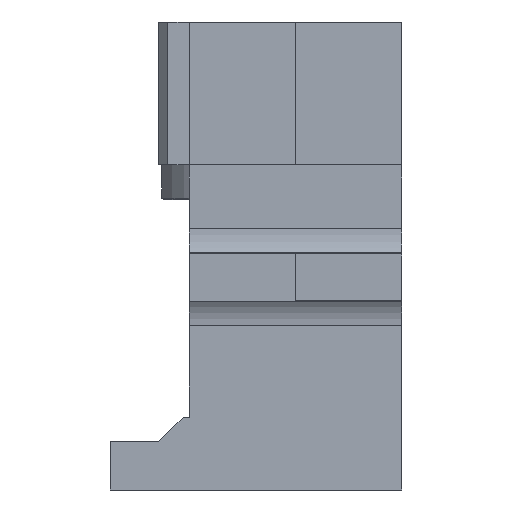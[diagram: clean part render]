
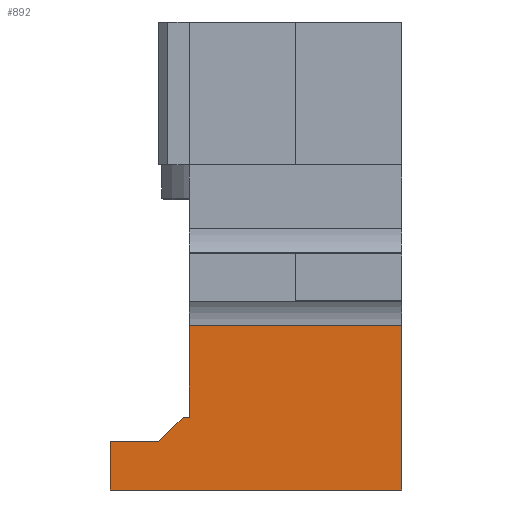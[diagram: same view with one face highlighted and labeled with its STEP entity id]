
A CAD part, left-side view. The second image highlights one B-rep face of the part: STEP entity #892.
In plain terms, the highlighted planar face has unit normal (-1, 0, 0).
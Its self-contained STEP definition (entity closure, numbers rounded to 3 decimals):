
#210 = LINE ( 'NONE', #1375, #3712 ) ;
#402 = ORIENTED_EDGE ( 'NONE', *, *, #4916, .T. ) ;
#500 = EDGE_LOOP ( 'NONE', ( #1604, #5370, #1821, #3695, #7574, #2030, #402, #2270 ) ) ;
#587 = DIRECTION ( 'NONE',  ( 0., 1., 0. ) ) ;
#726 = CARTESIAN_POINT ( 'NONE',  ( -50., -50., -126. ) ) ;
#749 = CARTESIAN_POINT ( 'NONE',  ( -50., 22., -87.992 ) ) ;
#879 = LINE ( 'NONE', #3065, #8242 ) ;
#892 = ADVANCED_FACE ( 'NONE', ( #8321 ), #1703, .F. ) ;
#896 = VECTOR ( 'NONE', #2702, 1000. ) ;
#921 = CARTESIAN_POINT ( 'NONE',  ( -50., 48., -142. ) ) ;
#1068 = VERTEX_POINT ( 'NONE', #5479 ) ;
#1212 = VERTEX_POINT ( 'NONE', #8908 ) ;
#1332 = DIRECTION ( 'NONE',  ( 0., -0.707, 0.707 ) ) ;
#1375 = CARTESIAN_POINT ( 'NONE',  ( -50., 32., -126. ) ) ;
#1402 = CARTESIAN_POINT ( 'NONE',  ( -50., -48., -142. ) ) ;
#1604 = ORIENTED_EDGE ( 'NONE', *, *, #6109, .T. ) ;
#1626 = LINE ( 'NONE', #726, #9189 ) ;
#1703 = PLANE ( 'NONE',  #3472 ) ;
#1728 = CARTESIAN_POINT ( 'NONE',  ( -50., -48., -87.992 ) ) ;
#1821 = ORIENTED_EDGE ( 'NONE', *, *, #4800, .F. ) ;
#2030 = ORIENTED_EDGE ( 'NONE', *, *, #7260, .F. ) ;
#2142 = CARTESIAN_POINT ( 'NONE',  ( -50., 22., -118. ) ) ;
#2197 = LINE ( 'NONE', #4189, #7725 ) ;
#2228 = DIRECTION ( 'NONE',  ( 0., 0., 1. ) ) ;
#2270 = ORIENTED_EDGE ( 'NONE', *, *, #6063, .F. ) ;
#2282 = CARTESIAN_POINT ( 'NONE',  ( -50., 22., -126. ) ) ;
#2445 = VERTEX_POINT ( 'NONE', #4330 ) ;
#2545 = VERTEX_POINT ( 'NONE', #749 ) ;
#2702 = DIRECTION ( 'NONE',  ( 0., 1., 0. ) ) ;
#2878 = DIRECTION ( 'NONE',  ( 0., 1., 0. ) ) ;
#3065 = CARTESIAN_POINT ( 'NONE',  ( -50., 22., -87.992 ) ) ;
#3111 = VERTEX_POINT ( 'NONE', #1402 ) ;
#3288 = VECTOR ( 'NONE', #6798, 1000. ) ;
#3472 = AXIS2_PLACEMENT_3D ( 'NONE', #4097, #4109, #4057 ) ;
#3512 = LINE ( 'NONE', #6939, #3288 ) ;
#3602 = VERTEX_POINT ( 'NONE', #1728 ) ;
#3642 = VECTOR ( 'NONE', #2228, 1000. ) ;
#3695 = ORIENTED_EDGE ( 'NONE', *, *, #8846, .T. ) ;
#3712 = VECTOR ( 'NONE', #1332, 1000. ) ;
#3857 = DIRECTION ( 'NONE',  ( 0., 1., 0. ) ) ;
#4057 = DIRECTION ( 'NONE',  ( 0., 1., 0. ) ) ;
#4079 = LINE ( 'NONE', #2282, #3642 ) ;
#4097 = CARTESIAN_POINT ( 'NONE',  ( -50., 22., -126. ) ) ;
#4109 = DIRECTION ( 'NONE',  ( 1., 0., 0. ) ) ;
#4189 = CARTESIAN_POINT ( 'NONE',  ( -50., -50., -142. ) ) ;
#4330 = CARTESIAN_POINT ( 'NONE',  ( -50., 48., -126. ) ) ;
#4621 = LINE ( 'NONE', #2142, #896 ) ;
#4710 = VERTEX_POINT ( 'NONE', #921 ) ;
#4800 = EDGE_CURVE ( 'NONE', #3111, #4710, #2197, .T. ) ;
#4916 = EDGE_CURVE ( 'NONE', #1068, #6761, #4621, .T. ) ;
#5297 = DIRECTION ( 'NONE',  ( 0., 0., 1. ) ) ;
#5370 = ORIENTED_EDGE ( 'NONE', *, *, #5604, .F. ) ;
#5479 = CARTESIAN_POINT ( 'NONE',  ( -50., 22., -118. ) ) ;
#5604 = EDGE_CURVE ( 'NONE', #4710, #2445, #3512, .T. ) ;
#5911 = EDGE_CURVE ( 'NONE', #3602, #2545, #879, .T. ) ;
#6063 = EDGE_CURVE ( 'NONE', #1212, #6761, #210, .T. ) ;
#6109 = EDGE_CURVE ( 'NONE', #1212, #2445, #1626, .T. ) ;
#6761 = VERTEX_POINT ( 'NONE', #7806 ) ;
#6798 = DIRECTION ( 'NONE',  ( 0., 0., 1. ) ) ;
#6939 = CARTESIAN_POINT ( 'NONE',  ( -50., 48., -142. ) ) ;
#7157 = VECTOR ( 'NONE', #5297, 1000. ) ;
#7260 = EDGE_CURVE ( 'NONE', #1068, #2545, #4079, .T. ) ;
#7534 = CARTESIAN_POINT ( 'NONE',  ( -50., -48., -126. ) ) ;
#7574 = ORIENTED_EDGE ( 'NONE', *, *, #5911, .T. ) ;
#7725 = VECTOR ( 'NONE', #3857, 1000. ) ;
#7806 = CARTESIAN_POINT ( 'NONE',  ( -50., 24., -118. ) ) ;
#8242 = VECTOR ( 'NONE', #2878, 1000. ) ;
#8321 = FACE_OUTER_BOUND ( 'NONE', #500, .T. ) ;
#8784 = LINE ( 'NONE', #7534, #7157 ) ;
#8846 = EDGE_CURVE ( 'NONE', #3111, #3602, #8784, .T. ) ;
#8908 = CARTESIAN_POINT ( 'NONE',  ( -50., 32., -126. ) ) ;
#9189 = VECTOR ( 'NONE', #587, 1000. ) ;
